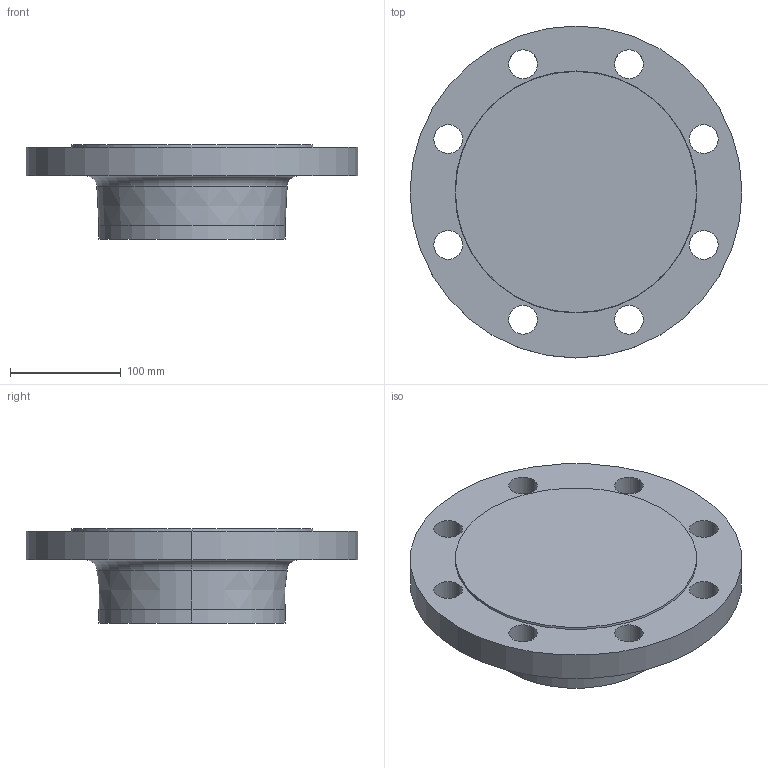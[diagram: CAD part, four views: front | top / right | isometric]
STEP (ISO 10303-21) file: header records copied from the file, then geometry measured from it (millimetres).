
FILE_DESCRIPTION (( 'STEP AP214' ), '1' );
FILE_NAME ('PN40 DN150 Type 21(ii) - Type B Face.STEP', '2019-01-02T23:18:12', ( '' ), ( '' ), 'SwSTEP 2.0', 'SolidWorks 2019', '' );
FILE_SCHEMA (( 'AUTOMOTIVE_DESIGN' ));
Length unit declared in the file: millimetre
Products named in the file (1): PN40 DN150 Type 21(ii) - Type B Face
Bounding box: 300 x 300 x 85 mm (x, y, z)
Volume: 3109099 mm3; surface area: 202738.8 mm2
Topology: 1 solids, 1 shells, 32 faces, 78 edges, 50 vertices
Faces by surface type: cylinder 20, torus 4, cone 4, plane 4
Entity records: 1034 total; most frequent: DIRECTION 198, CARTESIAN_POINT 161, ORIENTED_EDGE 156, AXIS2_PLACEMENT_3D 87, EDGE_CURVE 78, CIRCLE 54, EDGE_LOOP 50, VERTEX_POINT 50
